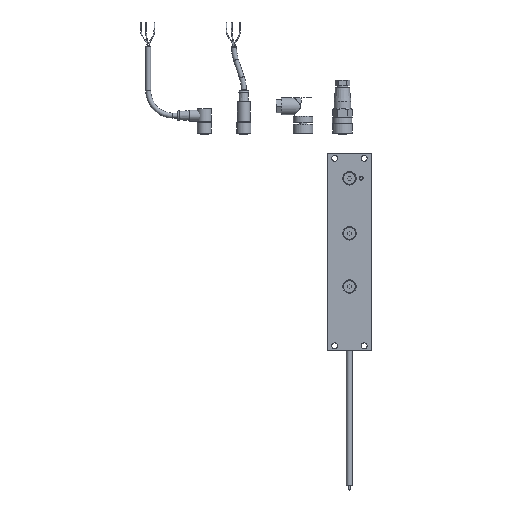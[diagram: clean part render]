
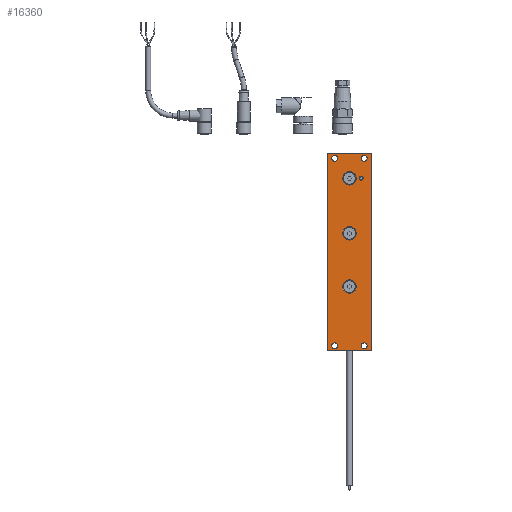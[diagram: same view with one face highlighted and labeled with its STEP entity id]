
A CAD part, top view. The second image highlights one B-rep face of the part: STEP entity #16360.
In plain terms, the highlighted planar face has unit normal (0, 0, 1).
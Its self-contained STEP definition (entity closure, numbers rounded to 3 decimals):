
#16360=ADVANCED_FACE('', (#16370,#16380,#16390,#16400,#16410,#16420,
#16430,#16440,#16450), #16460, .T.);
#64550=AXIS2_PLACEMENT_3D('Ax2Pl3d', #64560, #64570, #64580);
#64590=AXIS2_PLACEMENT_3D('Ax2Pl3d', #64600, #64610, #64620);
#64630=AXIS2_PLACEMENT_3D('Ax2Pl3d', #64640, #64650, #64660);
#64670=AXIS2_PLACEMENT_3D('Ax2Pl3d', #64680, #64690, #64700);
#64710=AXIS2_PLACEMENT_3D('Ax2Pl3d', #64720, #64730, #64740);
#64750=AXIS2_PLACEMENT_3D('Ax2Pl3d', #64760, #64770, #64780);
#64790=AXIS2_PLACEMENT_3D('Ax2Pl3d', #64800, #64810, #64820);
#64830=AXIS2_PLACEMENT_3D('Ax2Pl3d', #64840, #64850, #64860);
#64870=AXIS2_PLACEMENT_3D('Ax2Pl3d', #64880, #64890, #64900);
#64560=CARTESIAN_POINT('HicPkt', (151.669,130.977,
107.854));
#167190=CARTESIAN_POINT('', (144.814,130.977,107.854));
#64600=CARTESIAN_POINT('HicPkt', (129.169,65.98,
107.854));
#167200=CARTESIAN_POINT('', (174.169,65.98,107.854))
;
#167210=CARTESIAN_POINT('', (129.169,65.98,107.854))
;
#167220=CARTESIAN_POINT('', (174.169,65.98,107.854))
;
#167230=CARTESIAN_POINT('', (174.169,265.98,107.854))
;
#167240=CARTESIAN_POINT('', (174.169,265.98,107.854))
;
#167250=CARTESIAN_POINT('', (129.169,265.98,107.854));
#167260=CARTESIAN_POINT('', (129.169,265.98,107.854))
;
#167270=CARTESIAN_POINT('', (129.169,65.98,107.854))
;
#64640=CARTESIAN_POINT('HicPkt', (151.669,184.98,
107.854));
#167280=CARTESIAN_POINT('', (144.814,184.98,107.854))
;
#64680=CARTESIAN_POINT('HicPkt', (151.669,240.78,
107.854));
#167290=CARTESIAN_POINT('', (144.814,240.78,107.854))
;
#64720=CARTESIAN_POINT('HicPkt', (163.669,240.78,
107.854));
#167300=CARTESIAN_POINT('', (161.669,240.78,107.854))
;
#64760=CARTESIAN_POINT('HicPkt', (166.669,70.98,
107.854));
#167310=CARTESIAN_POINT('', (163.669,70.98,107.854))
;
#64800=CARTESIAN_POINT('HicPkt', (166.669,260.98,
107.854));
#167320=CARTESIAN_POINT('', (163.669,260.98,107.854))
;
#64840=CARTESIAN_POINT('HicPkt', (136.669,260.98,
107.854));
#167330=CARTESIAN_POINT('', (133.669,260.98,107.854))
;
#64880=CARTESIAN_POINT('HicPkt', (136.669,70.98,
107.854));
#167340=CARTESIAN_POINT('', (133.669,70.98,107.854))
;
#179550=CIRCLE('Circle', #64550, 6.855);
#179560=CIRCLE('Circle', #64630, 6.855);
#179570=CIRCLE('Circle', #64670, 6.855);
#179580=CIRCLE('Circle', #64710, 2.);
#179590=CIRCLE('Circle', #64750, 3.);
#179600=CIRCLE('Circle', #64790, 3.);
#179610=CIRCLE('Circle', #64830, 3.);
#179620=CIRCLE('Circle', #64870, 3.);
#64570=DIRECTION('Axis', (-0.,0.,1.));
#64580=DIRECTION('RefDirection', (-1.,0.,-0.));
#64610=DIRECTION('Axis', (-0.,-0.,1.));
#64620=DIRECTION('RefDirection', (-1.,
-0.002,-0.));
#244410=DIRECTION('', (1.,0.,0.));
#244420=DIRECTION('', (0.,1.,0.));
#244430=DIRECTION('', (-1.,0.,0.));
#244440=DIRECTION('', (0.,-1.,0.));
#64650=DIRECTION('Axis', (-0.,0.,1.));
#64660=DIRECTION('RefDirection', (-1.,0.,-0.));
#64690=DIRECTION('Axis', (-0.,0.,1.));
#64700=DIRECTION('RefDirection', (-1.,0.,-0.));
#64730=DIRECTION('Axis', (-0.,0.,1.));
#64740=DIRECTION('RefDirection', (-1.,0.,-0.));
#64770=DIRECTION('Axis', (-0.,0.,1.));
#64780=DIRECTION('RefDirection', (-1.,0.,-0.));
#64810=DIRECTION('Axis', (-0.,0.,1.));
#64820=DIRECTION('RefDirection', (-1.,0.,-0.));
#64850=DIRECTION('Axis', (-0.,0.,1.));
#64860=DIRECTION('RefDirection', (-1.,0.,-0.));
#64890=DIRECTION('Axis', (-0.,0.,1.));
#64900=DIRECTION('RefDirection', (-1.,0.,-0.));
#269320=EDGE_CURVE('', #269330, #269330, #179550, .T.);
#269340=EDGE_CURVE('', #269350, #269360, #269370, .T.);
#269380=EDGE_CURVE('', #269360, #269390, #269400, .T.);
#269410=EDGE_CURVE('', #269390, #269420, #269430, .T.);
#269440=EDGE_CURVE('', #269420, #269350, #269450, .T.);
#269460=EDGE_CURVE('', #269470, #269470, #179560, .T.);
#269480=EDGE_CURVE('', #269490, #269490, #179570, .T.);
#269500=EDGE_CURVE('', #269510, #269510, #179580, .T.);
#269520=EDGE_CURVE('', #269530, #269530, #179590, .T.);
#269540=EDGE_CURVE('', #269550, #269550, #179600, .T.);
#269560=EDGE_CURVE('', #269570, #269570, #179610, .T.);
#269580=EDGE_CURVE('', #269590, #269590, #179620, .T.);
#311800=EDGE_LOOP('Edge_loop', (#311810,#311820,#311830,#311840));
#311850=EDGE_LOOP('Edge_loop', (#311860));
#311870=EDGE_LOOP('Edge_loop', (#311880));
#311890=EDGE_LOOP('Edge_loop', (#311900));
#311910=EDGE_LOOP('Edge_loop', (#311920));
#311930=EDGE_LOOP('Edge_loop', (#311940));
#311950=EDGE_LOOP('Edge_loop', (#311960));
#311970=EDGE_LOOP('Edge_loop', (#311980));
#311990=EDGE_LOOP('Edge_loop', (#312000));
#16380=FACE_BOUND('', #311850, .T.);
#16390=FACE_BOUND('', #311870, .T.);
#16400=FACE_BOUND('', #311890, .T.);
#16410=FACE_BOUND('', #311910, .T.);
#16420=FACE_BOUND('', #311930, .T.);
#16430=FACE_BOUND('', #311950, .T.);
#16440=FACE_BOUND('', #311970, .T.);
#16450=FACE_BOUND('', #311990, .T.);
#16370=FACE_OUTER_BOUND('Face_outer_bound', #311800, .T.);
#269370=LINE('Line', #167200, #352200);
#269400=LINE('Line', #167230, #352210);
#269430=LINE('Line', #167250, #352220);
#269450=LINE('Line', #167270, #352230);
#311810=ORIENTED_EDGE('', *, *, #269340, .T.);
#311820=ORIENTED_EDGE('', *, *, #269380, .T.);
#311830=ORIENTED_EDGE('', *, *, #269410, .T.);
#311840=ORIENTED_EDGE('', *, *, #269440, .T.);
#311860=ORIENTED_EDGE('', *, *, #269320, .F.);
#311880=ORIENTED_EDGE('', *, *, #269460, .F.);
#311900=ORIENTED_EDGE('', *, *, #269480, .F.);
#311920=ORIENTED_EDGE('', *, *, #269500, .F.);
#311940=ORIENTED_EDGE('', *, *, #269520, .F.);
#311960=ORIENTED_EDGE('', *, *, #269540, .F.);
#311980=ORIENTED_EDGE('', *, *, #269560, .F.);
#312000=ORIENTED_EDGE('', *, *, #269580, .F.);
#16460=PLANE('Plane', #64590);
#352200=VECTOR('', #244410, 45.);
#352210=VECTOR('', #244420, 200.);
#352220=VECTOR('', #244430, 45.);
#352230=VECTOR('', #244440, 200.);
#269330=VERTEX_POINT('', #167190);
#269350=VERTEX_POINT('', #167210);
#269360=VERTEX_POINT('', #167220);
#269390=VERTEX_POINT('', #167240);
#269420=VERTEX_POINT('', #167260);
#269470=VERTEX_POINT('', #167280);
#269490=VERTEX_POINT('', #167290);
#269510=VERTEX_POINT('', #167300);
#269530=VERTEX_POINT('', #167310);
#269550=VERTEX_POINT('', #167320);
#269570=VERTEX_POINT('', #167330);
#269590=VERTEX_POINT('', #167340);
